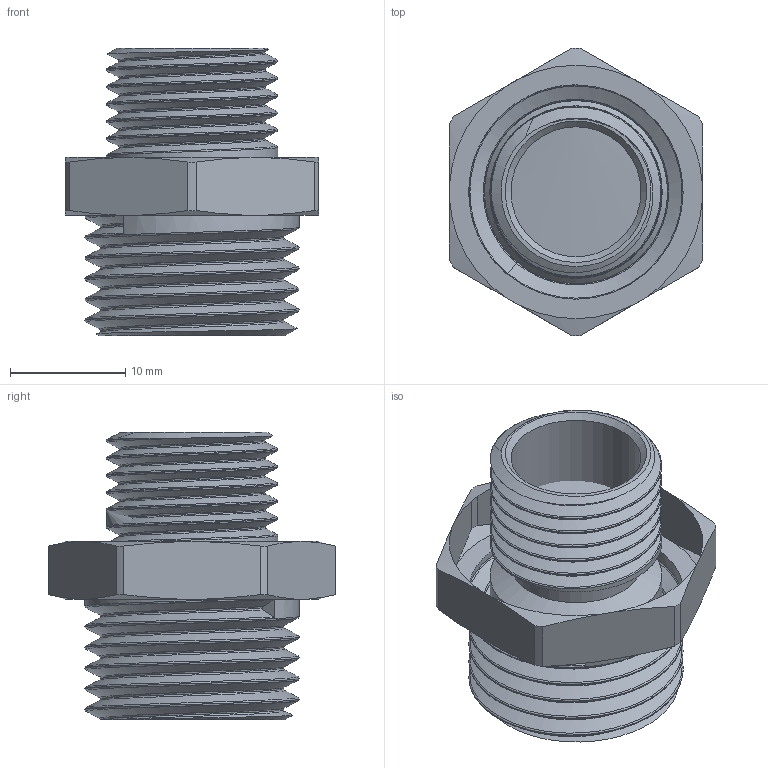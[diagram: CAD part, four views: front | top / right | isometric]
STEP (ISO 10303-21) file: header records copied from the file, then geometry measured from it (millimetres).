
FILE_DESCRIPTION(/* description */ (''),/* implementation_level */ '2;1');
FILE_NAME(/* name */ 'C:\Users\Doom\Desktop\Фадотех\Резьба\N13 18.03.2020\N13 18.03.2020.stp',/* time_stamp */ '2022-01-08T01:00:43+02:00',/* author */ ('Doom'),/* organization */ (''),/* preprocessor_version */ 'ST-DEVELOPER v18',/* originating_system */ 'Autodesk Inventor 2020',/* authorisation */ '');
FILE_SCHEMA (('AUTOMOTIVE_DESIGN { 1 0 10303 214 3 1 1 }'));
Length unit declared in the file: millimetre
Products named in the file (1): N12 18.03.2020
Bounding box: 22 x 25 x 25 mm (x, y, z)
Volume: 2697.6 mm3; surface area: 3725.4 mm2
Topology: 1 solids, 1 shells, 67 faces, 189 edges, 126 vertices
Faces by surface type: cylinder 26, cone 17, bspline 12, plane 12
Full cylindrical faces by diameter (mm): 11.3 x1, 14.9 x6, 15 x1, 15.94 x1, 18.63 x5
Entity records: 8210 total; most frequent: CARTESIAN_POINT 6592, ORIENTED_EDGE 378, DIRECTION 275, EDGE_CURVE 189, VERTEX_POINT 126, AXIS2_PLACEMENT_3D 111, EDGE_LOOP 71, FACE_OUTER_BOUND 67
